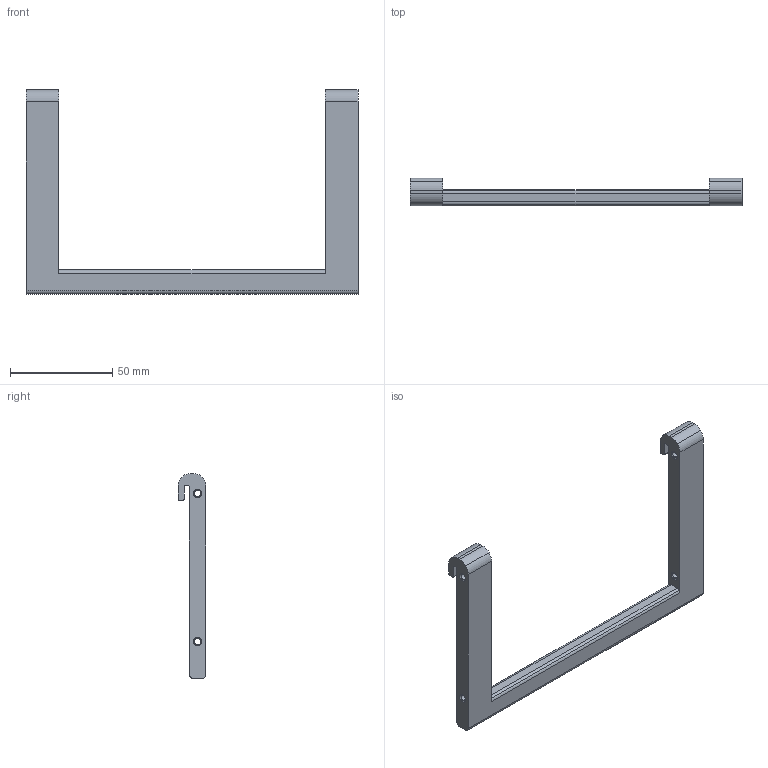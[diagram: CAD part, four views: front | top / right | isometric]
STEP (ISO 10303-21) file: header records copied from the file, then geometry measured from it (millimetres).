
FILE_DESCRIPTION(('STEP AP214'),'1');
FILE_NAME('Tray1.STP','2024-09-09T07:39:31',(' '),(' '),'Spatial InterOp 3D',' ',' ');
FILE_SCHEMA(('AUTOMOTIVE_DESIGN { 1 0 10303 214 1 1 1 1 }'));
Length unit declared in the file: millimetre
Products named in the file (1): Quader
Bounding box: 162 x 13.5 x 100 mm (x, y, z)
Volume: 38286.4 mm3; surface area: 15938.7 mm2
Topology: 1 solids, 1 shells, 74 faces, 200 edges, 128 vertices
Faces by surface type: cylinder 40, plane 18, cone 16
Entity records: 2393 total; most frequent: DIRECTION 446, CARTESIAN_POINT 403, ORIENTED_EDGE 400, EDGE_CURVE 200, AXIS2_PLACEMENT_3D 171, VERTEX_POINT 128, LINE 104, VECTOR 104
